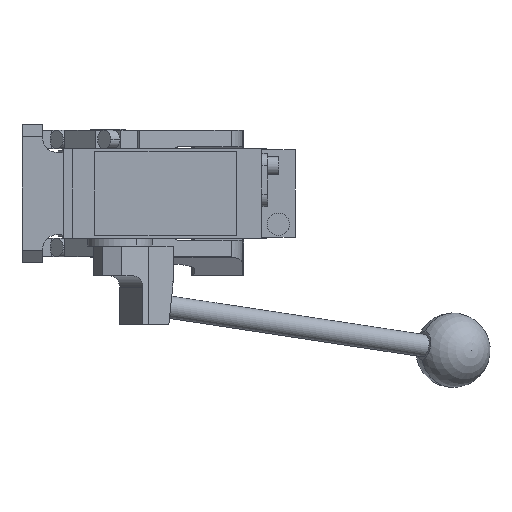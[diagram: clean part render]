
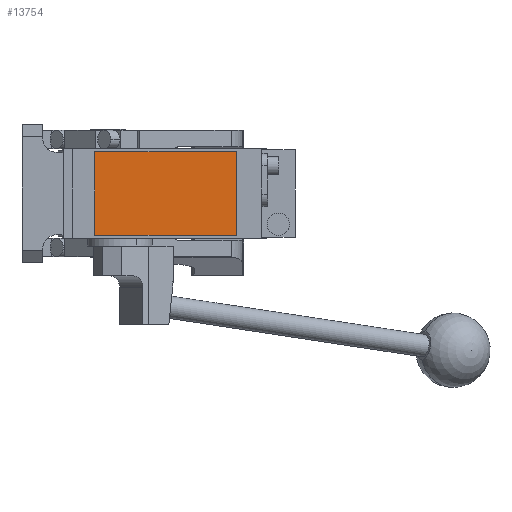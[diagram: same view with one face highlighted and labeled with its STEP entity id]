
A CAD part, front view. The second image highlights one B-rep face of the part: STEP entity #13754.
In plain terms, the highlighted planar face has unit normal (0, -1, 0).
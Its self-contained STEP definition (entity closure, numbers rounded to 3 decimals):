
#80 = EDGE_CURVE ( 'NONE', #6317, #1295, #8902, .T. ) ;
#694 = CARTESIAN_POINT ( 'NONE',  ( 69., -280.5, -22.5 ) ) ;
#861 = DIRECTION ( 'NONE',  ( 0., 0., -1. ) ) ;
#1295 = VERTEX_POINT ( 'NONE', #694 ) ;
#1690 = CARTESIAN_POINT ( 'NONE',  ( 0., -280.5, 0. ) ) ;
#2861 = EDGE_CURVE ( 'NONE', #8621, #6317, #15740, .T. ) ;
#3257 = ORIENTED_EDGE ( 'NONE', *, *, #80, .T. ) ;
#4143 = DIRECTION ( 'NONE',  ( 0., 0., 1. ) ) ;
#4217 = DIRECTION ( 'NONE',  ( 0., -1., 0. ) ) ;
#4497 = VECTOR ( 'NONE', #13741, 1000. ) ;
#4711 = AXIS2_PLACEMENT_3D ( 'NONE', #1690, #4217, #9140 ) ;
#6032 = CARTESIAN_POINT ( 'NONE',  ( -7., -280.5, -22.5 ) ) ;
#6317 = VERTEX_POINT ( 'NONE', #6032 ) ;
#6901 = ORIENTED_EDGE ( 'NONE', *, *, #2861, .T. ) ;
#6946 = VERTEX_POINT ( 'NONE', #14987 ) ;
#8517 = EDGE_LOOP ( 'NONE', ( #6901, #3257, #11978, #15101 ) ) ;
#8621 = VERTEX_POINT ( 'NONE', #11459 ) ;
#8902 = LINE ( 'NONE', #15063, #4497 ) ;
#9140 = DIRECTION ( 'NONE',  ( 0., 0., -1. ) ) ;
#9224 = PLANE ( 'NONE',  #4711 ) ;
#9813 = VECTOR ( 'NONE', #861, 1000. ) ;
#10219 = VECTOR ( 'NONE', #4143, 1000. ) ;
#10658 = CARTESIAN_POINT ( 'NONE',  ( -7., -280.5, 22.5 ) ) ;
#10736 = LINE ( 'NONE', #13275, #15770 ) ;
#11274 = EDGE_CURVE ( 'NONE', #6946, #8621, #10736, .T. ) ;
#11459 = CARTESIAN_POINT ( 'NONE',  ( -7., -280.5, 22.5 ) ) ;
#11978 = ORIENTED_EDGE ( 'NONE', *, *, #13739, .T. ) ;
#12821 = CARTESIAN_POINT ( 'NONE',  ( 69., -280.5, 22.5 ) ) ;
#13275 = CARTESIAN_POINT ( 'NONE',  ( -7., -280.5, 22.5 ) ) ;
#13739 = EDGE_CURVE ( 'NONE', #1295, #6946, #14052, .T. ) ;
#13741 = DIRECTION ( 'NONE',  ( 1., 0., 0. ) ) ;
#13754 = ADVANCED_FACE ( 'NONE', ( #15440 ), #9224, .T. ) ;
#14052 = LINE ( 'NONE', #12821, #10219 ) ;
#14987 = CARTESIAN_POINT ( 'NONE',  ( 69., -280.5, 22.5 ) ) ;
#15063 = CARTESIAN_POINT ( 'NONE',  ( -7., -280.5, -22.5 ) ) ;
#15101 = ORIENTED_EDGE ( 'NONE', *, *, #11274, .T. ) ;
#15440 = FACE_OUTER_BOUND ( 'NONE', #8517, .T. ) ;
#15740 = LINE ( 'NONE', #10658, #9813 ) ;
#15744 = DIRECTION ( 'NONE',  ( -1., 0., 0. ) ) ;
#15770 = VECTOR ( 'NONE', #15744, 1000. ) ;
